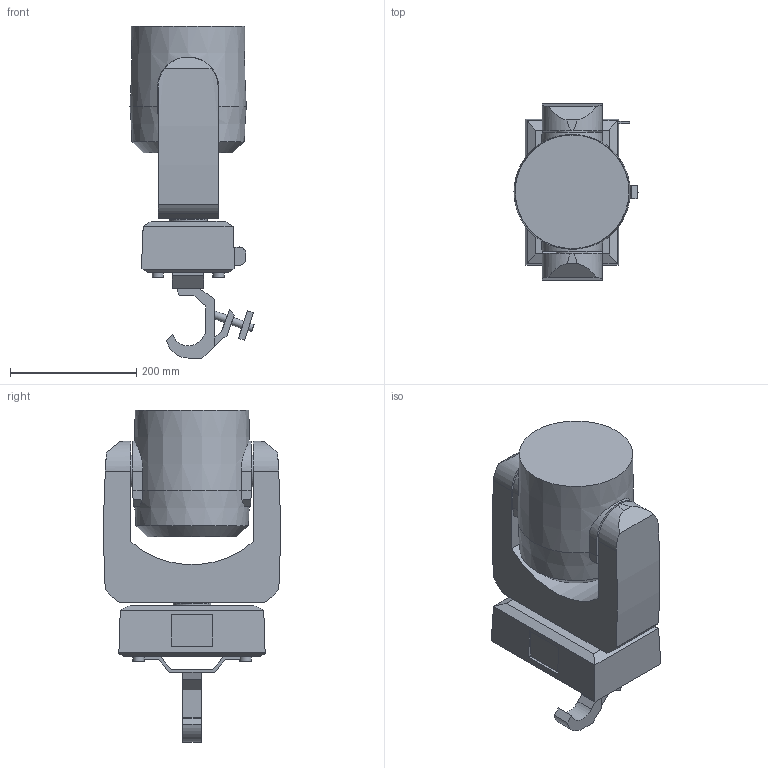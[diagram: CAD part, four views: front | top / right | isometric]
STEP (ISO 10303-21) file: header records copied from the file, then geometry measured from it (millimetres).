
FILE_DESCRIPTION(/* description */ ('Unknown'),/* implementation_level */ '2;1');
FILE_NAME(/* name */ '3D_SVB1',/* time_stamp */ '2024-07-04T14:57:35+02:00',/* author */ ('Unknown'),/* organization */ ('Unknown'),/* preprocessor_version */ 'ST-DEVELOPER v19.4',/* originating_system */ 'Solid Edge',/* authorisation */ 'Unknown');
FILE_SCHEMA (('AUTOMOTIVE_DESIGN {1 0 10303 214 3 1 1}'));
Length unit declared in the file: millimetre
Products named in the file (7): 3D_SVB1; SVB1_base; SVB1_arm; SVB1_Head; Omega_SlimClamp_90; Omega+SlimClamp; Clamp Doughty Slimline QT
Assembly tree (6 placements, depth 3):
  3D_SVB1
    SVB1_base
    SVB1_arm
    SVB1_Head
    Omega_SlimClamp_90
      Omega+SlimClamp
      Clamp Doughty Slimline QT
Bounding box: 196.24 x 279.22 x 525.29 mm (x, y, z)
Volume: 11606718.6 mm3; surface area: 554549.1 mm2
Topology: 5 solids, 5 shells, 138 faces, 344 edges, 227 vertices
Faces by surface type: plane 106, cylinder 27, cone 5
Full cylindrical faces by diameter (mm): 11 x2, 12 x4, 13 x1, 17.819 x4, 50 x1, 60 x2
Entity records: 4152 total; most frequent: CARTESIAN_POINT 781, DIRECTION 660, ORIENTED_EDGE 626, EDGE_CURVE 313, LINE 228, VECTOR 228, AXIS2_PLACEMENT_3D 216, VERTEX_POINT 213
